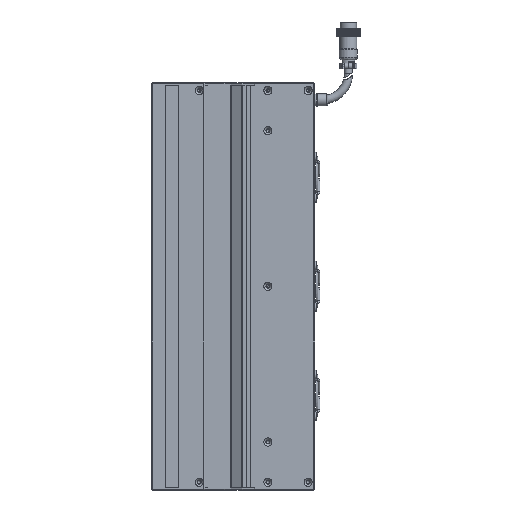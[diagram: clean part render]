
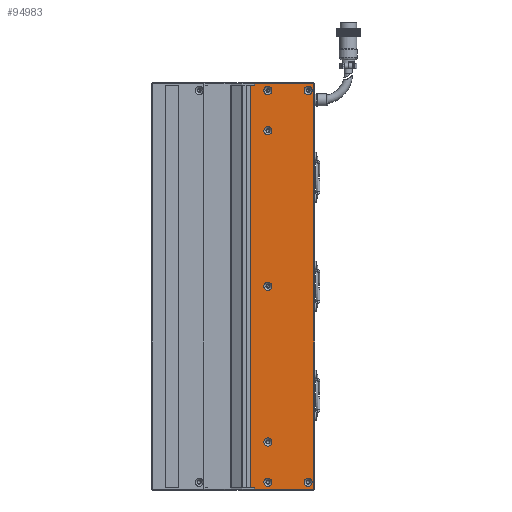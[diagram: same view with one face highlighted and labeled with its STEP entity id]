
A CAD part, left-side view. The second image highlights one B-rep face of the part: STEP entity #94983.
In plain terms, the highlighted planar face has unit normal (-1, 0, 0).
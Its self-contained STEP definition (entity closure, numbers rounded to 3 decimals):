
#1888 = CIRCLE ( 'NONE', #97320, 3.15 ) ;
#5674 = VERTEX_POINT ( 'NONE', #103602 ) ;
#6707 = VECTOR ( 'NONE', #14088, 1000. ) ;
#7111 = CARTESIAN_POINT ( 'NONE',  ( -24.998, -72.5, 155. ) ) ;
#8261 = CARTESIAN_POINT ( 'NONE',  ( -24.998, -23.25, -155. ) ) ;
#8759 = VERTEX_POINT ( 'NONE', #47803 ) ;
#9155 = AXIS2_PLACEMENT_3D ( 'NONE', #101805, #82905, #40244 ) ;
#9423 = DIRECTION ( 'NONE',  ( 0., 0., 1. ) ) ;
#10379 = EDGE_CURVE ( 'NONE', #55783, #63105, #97749, .T. ) ;
#12423 = CIRCLE ( 'NONE', #26495, 3.15 ) ;
#12481 = CARTESIAN_POINT ( 'NONE',  ( -24.998, -72., 155. ) ) ;
#13225 = LINE ( 'NONE', #94215, #6707 ) ;
#13452 = ORIENTED_EDGE ( 'NONE', *, *, #24760, .F. ) ;
#13663 = CARTESIAN_POINT ( 'NONE',  ( -24.998, -36.5, 151. ) ) ;
#14088 = DIRECTION ( 'NONE',  ( 0., 0., 1. ) ) ;
#14997 = ORIENTED_EDGE ( 'NONE', *, *, #114528, .F. ) ;
#17652 = DIRECTION ( 'NONE',  ( 0., 1., 0. ) ) ;
#17998 = CARTESIAN_POINT ( 'NONE',  ( -24.998, -36.5, 120. ) ) ;
#18655 = EDGE_CURVE ( 'NONE', #108546, #108546, #1888, .T. ) ;
#20235 = ORIENTED_EDGE ( 'NONE', *, *, #45201, .F. ) ;
#22221 = EDGE_LOOP ( 'NONE', ( #101681 ) ) ;
#24760 = EDGE_CURVE ( 'NONE', #8759, #8759, #33584, .T. ) ;
#25198 = PLANE ( 'NONE',  #74622 ) ;
#25605 = FACE_BOUND ( 'NONE', #37291, .T. ) ;
#25765 = EDGE_LOOP ( 'NONE', ( #68472 ) ) ;
#26495 = AXIS2_PLACEMENT_3D ( 'NONE', #91494, #61348, #112602 ) ;
#27128 = CARTESIAN_POINT ( 'NONE',  ( -24.998, -26.5, -156.5 ) ) ;
#27571 = EDGE_CURVE ( 'NONE', #45724, #45724, #79878, .T. ) ;
#31460 = VERTEX_POINT ( 'NONE', #70594 ) ;
#33584 = CIRCLE ( 'NONE', #115810, 3.15 ) ;
#35412 = CARTESIAN_POINT ( 'NONE',  ( -24.998, -67.5, 151. ) ) ;
#36560 = DIRECTION ( 'NONE',  ( 0., 0., 1. ) ) ;
#36665 = CARTESIAN_POINT ( 'NONE',  ( -24.998, -72.5, -156.5 ) ) ;
#37291 = EDGE_LOOP ( 'NONE', ( #51907 ) ) ;
#37767 = VERTEX_POINT ( 'NONE', #91631 ) ;
#38762 = CIRCLE ( 'NONE', #72827, 3.15 ) ;
#39842 = VECTOR ( 'NONE', #110681, 1000. ) ;
#40000 = DIRECTION ( 'NONE',  ( 0., 1., 0. ) ) ;
#40244 = DIRECTION ( 'NONE',  ( 0., 0., 1. ) ) ;
#40706 = ORIENTED_EDGE ( 'NONE', *, *, #108076, .T. ) ;
#42539 = VERTEX_POINT ( 'NONE', #69682 ) ;
#42902 = ORIENTED_EDGE ( 'NONE', *, *, #10379, .T. ) ;
#43406 = DIRECTION ( 'NONE',  ( -1., 0., 0. ) ) ;
#43476 = AXIS2_PLACEMENT_3D ( 'NONE', #13663, #43406, #75319 ) ;
#45201 = EDGE_CURVE ( 'NONE', #64644, #109686, #13225, .T. ) ;
#45724 = VERTEX_POINT ( 'NONE', #71213 ) ;
#46372 = CARTESIAN_POINT ( 'NONE',  ( -24.998, -72.5, 155. ) ) ;
#46409 = EDGE_LOOP ( 'NONE', ( #74923 ) ) ;
#46493 = DIRECTION ( 'NONE',  ( 0., -1., 0. ) ) ;
#47803 = CARTESIAN_POINT ( 'NONE',  ( -24.998, -36.5, -147.85 ) ) ;
#48864 = ORIENTED_EDGE ( 'NONE', *, *, #76028, .F. ) ;
#49121 = CARTESIAN_POINT ( 'NONE',  ( -24.998, -36.5, -116.85 ) ) ;
#49587 = AXIS2_PLACEMENT_3D ( 'NONE', #17998, #129657, #36560 ) ;
#49766 = FACE_BOUND ( 'NONE', #22221, .T. ) ;
#51691 = VERTEX_POINT ( 'NONE', #74646 ) ;
#51907 = ORIENTED_EDGE ( 'NONE', *, *, #68349, .F. ) ;
#52961 = EDGE_LOOP ( 'NONE', ( #13452 ) ) ;
#52991 = FACE_BOUND ( 'NONE', #122476, .T. ) ;
#54089 = DIRECTION ( 'NONE',  ( 0., 0., 1. ) ) ;
#54660 = FACE_BOUND ( 'NONE', #25765, .T. ) ;
#54778 = CARTESIAN_POINT ( 'NONE',  ( -24.998, -23.25, -155. ) ) ;
#55783 = VERTEX_POINT ( 'NONE', #112370 ) ;
#56669 = VECTOR ( 'NONE', #64705, 1000. ) ;
#57044 = VECTOR ( 'NONE', #17652, 1000. ) ;
#59705 = EDGE_CURVE ( 'NONE', #80513, #109686, #74256, .T. ) ;
#60193 = VERTEX_POINT ( 'NONE', #110538 ) ;
#60527 = EDGE_LOOP ( 'NONE', ( #80334, #20235, #90253, #101877, #40706, #42902, #116244, #48864 ) ) ;
#61104 = DIRECTION ( 'NONE',  ( 0., -1., 0. ) ) ;
#61348 = DIRECTION ( 'NONE',  ( -1., 0., 0. ) ) ;
#62279 = LINE ( 'NONE', #7111, #107251 ) ;
#63105 = VERTEX_POINT ( 'NONE', #69437 ) ;
#63581 = DIRECTION ( 'NONE',  ( -1., 0., 0. ) ) ;
#64644 = VERTEX_POINT ( 'NONE', #27128 ) ;
#64705 = DIRECTION ( 'NONE',  ( 0., 0., 1. ) ) ;
#64827 = LINE ( 'NONE', #54778, #56669 ) ;
#65559 = DIRECTION ( 'NONE',  ( -1., 0., 0. ) ) ;
#68349 = EDGE_CURVE ( 'NONE', #37767, #37767, #12423, .T. ) ;
#68472 = ORIENTED_EDGE ( 'NONE', *, *, #79442, .F. ) ;
#69437 = CARTESIAN_POINT ( 'NONE',  ( -24.998, -26.5, 155. ) ) ;
#69682 = CARTESIAN_POINT ( 'NONE',  ( -24.998, -67.5, 154.15 ) ) ;
#70594 = CARTESIAN_POINT ( 'NONE',  ( -24.998, -72., -156.5 ) ) ;
#71052 = VECTOR ( 'NONE', #40000, 1000. ) ;
#71213 = CARTESIAN_POINT ( 'NONE',  ( -24.998, -36.5, 123.15 ) ) ;
#72827 = AXIS2_PLACEMENT_3D ( 'NONE', #35412, #65559, #87055 ) ;
#74049 = EDGE_CURVE ( 'NONE', #31460, #64644, #76293, .T. ) ;
#74256 = LINE ( 'NONE', #87364, #87094 ) ;
#74622 = AXIS2_PLACEMENT_3D ( 'NONE', #46372, #98948, #118361 ) ;
#74646 = CARTESIAN_POINT ( 'NONE',  ( -24.998, -72., 156.5 ) ) ;
#74923 = ORIENTED_EDGE ( 'NONE', *, *, #27571, .F. ) ;
#75319 = DIRECTION ( 'NONE',  ( 0., 0., 1. ) ) ;
#76028 = EDGE_CURVE ( 'NONE', #80513, #5674, #64827, .T. ) ;
#76293 = LINE ( 'NONE', #36665, #57044 ) ;
#79442 = EDGE_CURVE ( 'NONE', #42539, #42539, #38762, .T. ) ;
#79878 = CIRCLE ( 'NONE', #49587, 3.15 ) ;
#80115 = CARTESIAN_POINT ( 'NONE',  ( -24.998, -26.5, 148. ) ) ;
#80334 = ORIENTED_EDGE ( 'NONE', *, *, #59705, .T. ) ;
#80513 = VERTEX_POINT ( 'NONE', #8261 ) ;
#82905 = DIRECTION ( 'NONE',  ( -1., 0., 0. ) ) ;
#84404 = DIRECTION ( 'NONE',  ( 0., 0., 1. ) ) ;
#84590 = EDGE_CURVE ( 'NONE', #5674, #63105, #62279, .T. ) ;
#87055 = DIRECTION ( 'NONE',  ( 0., 0., 1. ) ) ;
#87094 = VECTOR ( 'NONE', #46493, 1000. ) ;
#87364 = CARTESIAN_POINT ( 'NONE',  ( -24.998, -72.5, -155. ) ) ;
#88067 = CIRCLE ( 'NONE', #9155, 3.15 ) ;
#90252 = CARTESIAN_POINT ( 'NONE',  ( -24.998, -67.5, -147.85 ) ) ;
#90253 = ORIENTED_EDGE ( 'NONE', *, *, #74049, .F. ) ;
#91494 = CARTESIAN_POINT ( 'NONE',  ( -24.998, -36.5, 0. ) ) ;
#91631 = CARTESIAN_POINT ( 'NONE',  ( -24.998, -36.5, 3.15 ) ) ;
#91659 = CARTESIAN_POINT ( 'NONE',  ( -24.998, -72.5, 156.5 ) ) ;
#91891 = CIRCLE ( 'NONE', #43476, 3.15 ) ;
#92128 = EDGE_CURVE ( 'NONE', #60193, #60193, #91891, .T. ) ;
#93243 = FACE_BOUND ( 'NONE', #95916, .T. ) ;
#94215 = CARTESIAN_POINT ( 'NONE',  ( -24.998, -26.5, -148. ) ) ;
#94983 = ADVANCED_FACE ( 'NONE', ( #93243, #101254, #52991, #54660, #49766, #25605, #120665, #104458 ), #25198, .F. ) ;
#95916 = EDGE_LOOP ( 'NONE', ( #14997 ) ) ;
#97320 = AXIS2_PLACEMENT_3D ( 'NONE', #121526, #111534, #9423 ) ;
#97749 = LINE ( 'NONE', #80115, #39842 ) ;
#98494 = LINE ( 'NONE', #12481, #109681 ) ;
#98948 = DIRECTION ( 'NONE',  ( 1., 0., 0. ) ) ;
#101254 = FACE_BOUND ( 'NONE', #52961, .T. ) ;
#101681 = ORIENTED_EDGE ( 'NONE', *, *, #18655, .F. ) ;
#101805 = CARTESIAN_POINT ( 'NONE',  ( -24.998, -67.5, -151. ) ) ;
#101877 = ORIENTED_EDGE ( 'NONE', *, *, #125688, .T. ) ;
#103602 = CARTESIAN_POINT ( 'NONE',  ( -24.998, -23.25, 155. ) ) ;
#104458 = FACE_OUTER_BOUND ( 'NONE', #60527, .T. ) ;
#107251 = VECTOR ( 'NONE', #61104, 1000. ) ;
#108076 = EDGE_CURVE ( 'NONE', #51691, #55783, #117741, .T. ) ;
#108546 = VERTEX_POINT ( 'NONE', #49121 ) ;
#109681 = VECTOR ( 'NONE', #84404, 1000. ) ;
#109686 = VERTEX_POINT ( 'NONE', #125928 ) ;
#110538 = CARTESIAN_POINT ( 'NONE',  ( -24.998, -36.5, 154.15 ) ) ;
#110681 = DIRECTION ( 'NONE',  ( 0., 0., -1. ) ) ;
#111534 = DIRECTION ( 'NONE',  ( -1., 0., 0. ) ) ;
#112370 = CARTESIAN_POINT ( 'NONE',  ( -24.998, -26.5, 156.5 ) ) ;
#112602 = DIRECTION ( 'NONE',  ( 0., 0., 1. ) ) ;
#114195 = ORIENTED_EDGE ( 'NONE', *, *, #92128, .F. ) ;
#114528 = EDGE_CURVE ( 'NONE', #127763, #127763, #88067, .T. ) ;
#115299 = CARTESIAN_POINT ( 'NONE',  ( -24.998, -36.5, -151. ) ) ;
#115810 = AXIS2_PLACEMENT_3D ( 'NONE', #115299, #63581, #54089 ) ;
#116244 = ORIENTED_EDGE ( 'NONE', *, *, #84590, .F. ) ;
#117741 = LINE ( 'NONE', #91659, #71052 ) ;
#118361 = DIRECTION ( 'NONE',  ( 0., 0., -1. ) ) ;
#120665 = FACE_BOUND ( 'NONE', #46409, .T. ) ;
#121526 = CARTESIAN_POINT ( 'NONE',  ( -24.998, -36.5, -120. ) ) ;
#122476 = EDGE_LOOP ( 'NONE', ( #114195 ) ) ;
#125688 = EDGE_CURVE ( 'NONE', #31460, #51691, #98494, .T. ) ;
#125928 = CARTESIAN_POINT ( 'NONE',  ( -24.998, -26.5, -155. ) ) ;
#127763 = VERTEX_POINT ( 'NONE', #90252 ) ;
#129657 = DIRECTION ( 'NONE',  ( -1., 0., 0. ) ) ;
